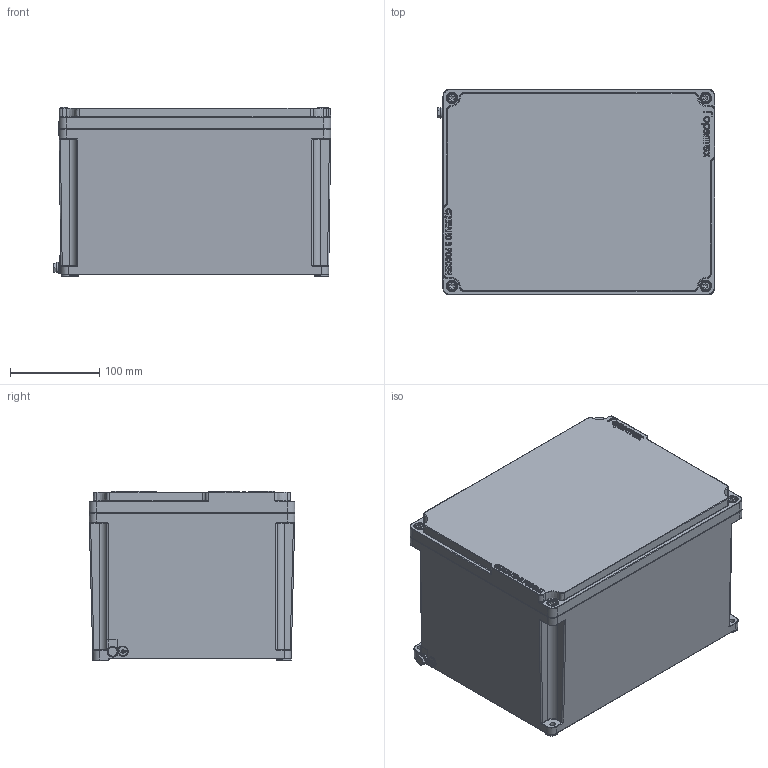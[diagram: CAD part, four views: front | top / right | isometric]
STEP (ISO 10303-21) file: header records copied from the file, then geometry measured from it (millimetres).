
FILE_DESCRIPTION((''),'2;1');
FILE_NAME('D:\ТЗ\Для отдела рекламы\КСРВ302318_М1.stp','2024-01-23T13:17:50',('A.V.Dzhibladze'),(''),'Autodesk Inventor 2012','Autodesk Inventor 2012','');
FILE_SCHEMA(('AUTOMOTIVE_DESIGN { 1 2 10303 214 0 1 1 1 }'));
Length unit declared in the file: millimetre
Products named in the file (1): КСРВ302318_М1_Внешний контур_1
Bounding box: 311.69 x 231.29 x 190 mm (x, y, z)
Volume: 1684298.2 mm3; surface area: 656307.9 mm2
Topology: 1 solids, 10 shells, 1705 faces, 4241 edges, 2602 vertices
Faces by surface type: bspline 603, plane 505, cylinder 360, torus 130, cone 91, sphere 16
Full cylindrical faces by diameter (mm): 4.134 x6, 4.9 x1, 4.917 x5, 5.459 x1, 6 x5, 6.4 x1, 6.5 x1, 8.7 x1, 10 x4, 12 x1
Entity records: 84861 total; most frequent: CARTESIAN_POINT 47031, ORIENTED_EDGE 8090, DIRECTION 6182, EDGE_CURVE 4045, VERTEX_POINT 2574, AXIS2_PLACEMENT_3D 2213, EDGE_LOOP 1953, VECTOR 1756
